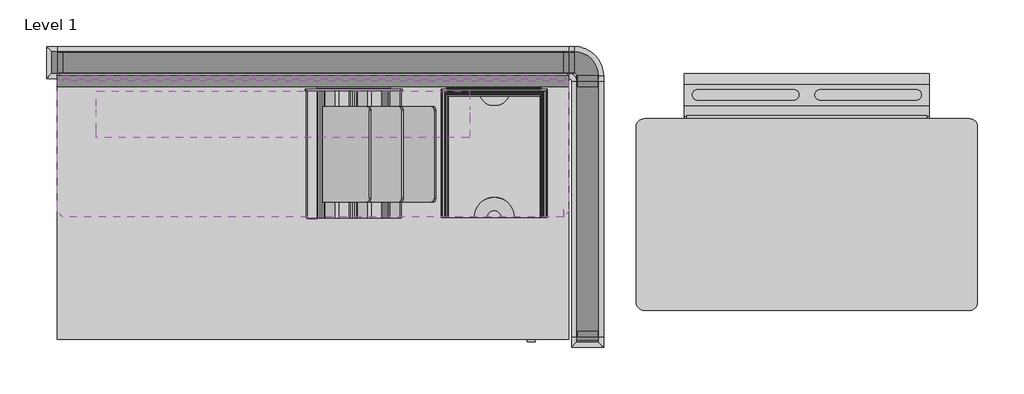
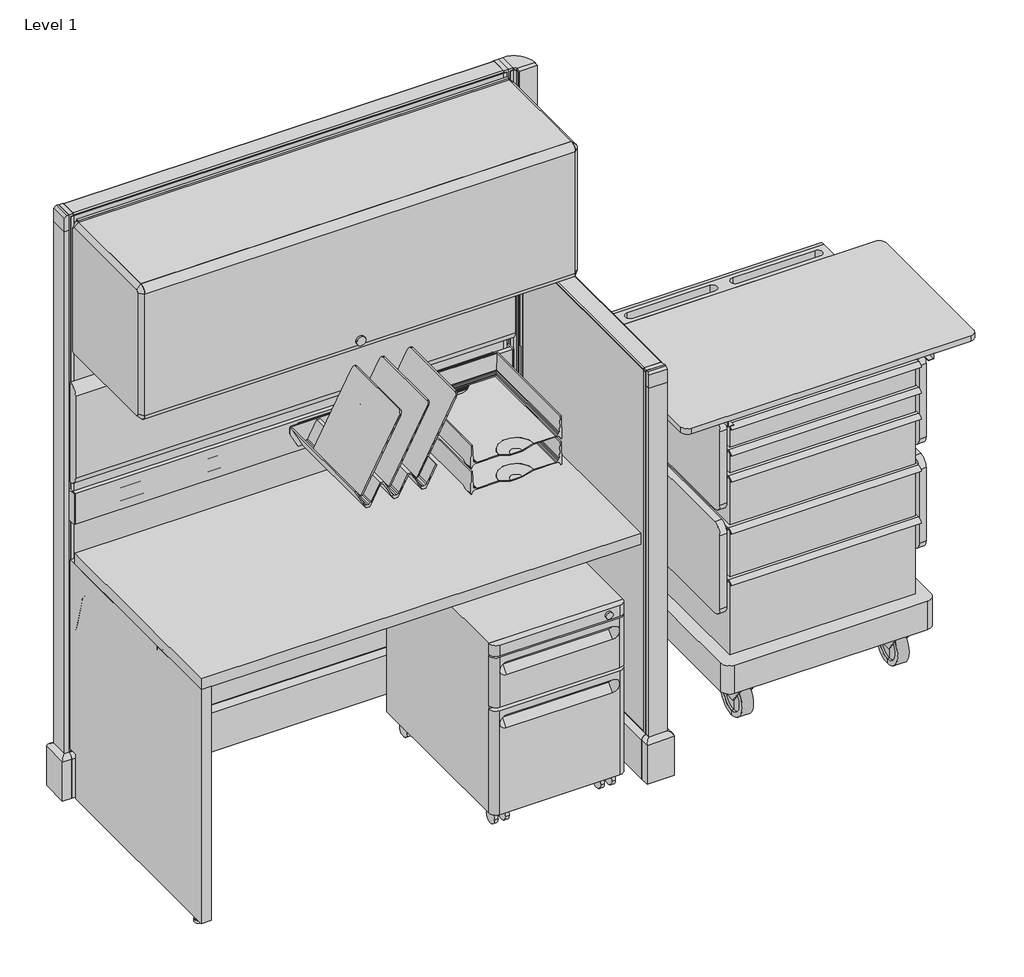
# One storey, incomplete: 25 furniture elements, 1 light fixture.
"""IFC4 building model written with IfcOpenShell, lengths in millimetres."""

from ifc_helpers import new_model, si_unit, origin, place, context, project, spatial, transform, mapped, element, save
from components import furniture_7109f743, furniture_22e63fa4, furniture_cda7a09b, furniture_49f88748, furniture_6098a880, furniture_083a197f, furniture_cf1839e9, furniture_645566ab, furniture_ddd7d6d3, furniture_545f82d3, furniture_84c54a78, furniture_77e4657b, furniture_9296cfee, furniture_28e0df5b, furniture_b7c7402d, furniture_9d04d1cc, furniture_cbf60e6f, furniture_c08c7397, furniture_5c2546f9, furniture_ba981915, a_3_f482e030, a_3_189406c7, b_6_92a8d064, b_6_520a1b3d, c_9_607037d1, light_fixture_5a12cc18

model = new_model("IFC4")

# Units and contexts
model_context = context("Model", 3, world=origin())
ifc_project = project(units=[si_unit("LENGTHUNIT", "METRE", prefix="MILLI")], contexts=[model_context])

# Site, building, storey
site = spatial("IfcSite", under=ifc_project)
building = spatial("IfcBuilding", under=site)
storey = spatial("IfcBuildingStorey", under=building, Name="Level 1", Elevation=0.0)

# Furniture
placement = place(None, origin())
furniture_shape = furniture_7109f743(model_context)
element("IfcFurniture", 1, ObjectType="HermanMiller_ActionOffice_A1110_Hard-SurfacedPanelStandardBase : 67\"H x 48\"W-N", at=placement, inside=storey, context=model_context, shape_type="MappedRepresentation", body=[
    mapped(furniture_shape, transform((609.6, -19.05, 0.0), x_axis=(1.0, 0.0, 0.0), y_axis=(0.0, 1.0, 0.0), z_axis=(0.0, 0.0, 1.0))),
])
furniture_2_shape = furniture_22e63fa4(model_context)
element("IfcFurniture", 2, ObjectType="HermanMiller_ActionOffice_A1110_Hard-SurfacedPanelStandardBase : 47\"H x 24\"W-N", at=placement, inside=storey, context=model_context, shape_type="MappedRepresentation", body=[
    mapped(furniture_2_shape, transform((1263.6493657, -368.3, 0.0), x_axis=(0.0, -1.0, 0.0), y_axis=(1.0, 0.0, 0.0), z_axis=(0.0, 0.0, 1.0))),
])
furniture_3_shape = furniture_cda7a09b(model_context)
element("IfcFurniture", 3, ObjectType="HermanMiller_ActionOffice_A3610_ToolBar : 4\"H x 48\"W", at=placement, inside=storey, context=model_context, shape_type="MappedRepresentation", body=[
    mapped(furniture_3_shape, transform((609.6, -57.1499996, 0.0), x_axis=(1.0, 0.0, 0.0), y_axis=(0.0, 1.0, 0.0), z_axis=(0.0, 0.0, 1.0))),
])
furniture_4_shape = furniture_49f88748(model_context)
element("IfcFurniture", 4, ObjectType="HermanMiller_ActionOffice_A3410_B-StyleTackboard : 12\"H x 48\"W", at=placement, inside=storey, context=model_context, shape_type="MappedRepresentation", body=[
    mapped(furniture_4_shape, transform((609.6, -63.5, 0.0), x_axis=(1.0, 0.0, 0.0), y_axis=(0.0, 1.0, 0.0), z_axis=(0.0, 0.0, 1.0))),
])
furniture_5_shape = furniture_6098a880(model_context)
element("IfcFurniture", 5, ObjectType="HermanMiller_ActionOffice_A3352_B-StyleFlipperDoorUnit : 15 1/2\"H x 13\"D x 48\"W", at=placement, inside=storey, context=model_context, shape_type="MappedRepresentation", body=[
    mapped(furniture_5_shape, transform((609.6, -231.775, 0.0), x_axis=(1.0, 0.0, 0.0), y_axis=(0.0, 1.0, 0.0), z_axis=(0.0, 0.0, 1.0))),
])
furniture_6_shape = furniture_083a197f(model_context)
element("IfcFurniture", 6, ObjectType="HermanMiller_ActionOffice_A2310_Sq-EdgeRectangularWorkSurface : 24\"D x 48\"W", at=placement, inside=storey, context=model_context, shape_type="MappedRepresentation", body=[
    mapped(furniture_6_shape, transform((609.6, -365.125, 0.0), x_axis=(1.0, 0.0, 0.0), y_axis=(0.0, 1.0, 0.0), z_axis=(0.0, 0.0, 1.0))),
])
furniture_7_shape = furniture_cf1839e9(model_context)
element("IfcFurniture", 7, ObjectType="HermanMiller_CoStruc_CO205_CFrame : 10\"H x 17\"D x 22\"W", at=placement, inside=storey, context=model_context, shape_type="MappedRepresentation", body=[
    mapped(furniture_7_shape, transform((1691.3807951, -215.4268397, 0.0), x_axis=(1.0, 0.0, 0.0), y_axis=(0.0, 1.0, 0.0), z_axis=(0.0, 0.0, 1.0))),
])
furniture_8_shape = furniture_645566ab(model_context)
element("IfcFurniture", 8, ObjectType="HermanMiller_CoStruc_CO555_CounterTop : 18\"D x 32\"W", at=placement, inside=storey, context=model_context, shape_type="MappedRepresentation", body=[
    mapped(furniture_8_shape, transform((1786.3185, -381.93472, 0.0), x_axis=(1.0, 0.0, 0.0), y_axis=(0.0, 1.0, 0.0), z_axis=(0.0, 0.0, 1.0))),
])
furniture_9_shape = furniture_ddd7d6d3(model_context)
element("IfcFurniture", 9, ObjectType="HermanMiller_CoStruc_CO205_CFrame : 10\"H x 17\"D x 22\"W", at=placement, inside=storey, context=model_context, shape_type="MappedRepresentation", body=[
    mapped(furniture_9_shape, transform((1691.3807951, -215.4268397, 0.0), x_axis=(1.0, 0.0, 0.0), y_axis=(0.0, 1.0, 0.0), z_axis=(0.0, 0.0, 1.0))),
])
furniture_10_shape = furniture_545f82d3(model_context)
element("IfcFurniture", 10, ObjectType="HermanMiller_CoStruc_CO212_LCart : 36\"H x 23\"W Std", at=placement, inside=storey, context=model_context, shape_type="MappedRepresentation", body=[
    mapped(furniture_10_shape, transform((1786.3185, -327.95972, 0.0), x_axis=(1.0, 0.0, 0.0), y_axis=(0.0, 1.0, 0.0), z_axis=(0.0, 0.0, 1.0))),
])
furniture_11_shape = furniture_84c54a78(model_context)
element("IfcFurniture", 11, ObjectType="HermanMiller_QuadrantFiling_G5111_MobilePedestal : 21-1/2\"H x 20\"D x 15\"W BF", at=placement, inside=storey, context=model_context, shape_type="MappedRepresentation", body=[
    mapped(furniture_11_shape, transform((994.43794, -415.925003, 0.0), x_axis=(1.0, 0.0, 0.0), y_axis=(0.0, 1.0, 0.0), z_axis=(0.0, 0.0, 1.0))),
])
furniture_12_shape = furniture_77e4657b(model_context)
element("IfcFurniture", 12, ObjectType="HermanMiller_ThrivePortfolio_Y7216_PaperTray : 3\"H x 12\"D x 10\"W", at=placement, inside=storey, context=model_context, shape_type="MappedRepresentation", body=[
    mapped(furniture_12_shape, transform((1041.29586, -235.1151, 0.0), x_axis=(1.0, 0.0, 0.0), y_axis=(0.0, 1.0, 0.0), z_axis=(0.0, 0.0, 1.0))),
])
furniture_13_shape = furniture_9296cfee(model_context)
element("IfcFurniture", 13, ObjectType="HermanMiller_ThrivePortfolio_Y7216_PaperTray : 3\"H x 12\"D x 10\"W", at=placement, inside=storey, context=model_context, shape_type="MappedRepresentation", body=[
    mapped(furniture_13_shape, transform((1041.29586, -235.1151, 0.0), x_axis=(1.0, 0.0, 0.0), y_axis=(0.0, 1.0, 0.0), z_axis=(0.0, 0.0, 1.0))),
])
furniture_14_shape = furniture_28e0df5b(model_context)
element("IfcFurniture", 14, ObjectType="HermanMiller_ThrivePortfolio_Y7218_DiagonalTray : 8 1/2\"H x 12\"D x 13\"W", at=placement, inside=storey, context=model_context, shape_type="MappedRepresentation", body=[
    mapped(furniture_14_shape, transform((706.399157, -236.62386, 0.0), x_axis=(1.0, 0.0, 0.0), y_axis=(0.0, 1.0, 0.0), z_axis=(0.0, 0.0, 1.0))),
])
furniture_15_shape = furniture_b7c7402d(model_context)
element("IfcFurniture", 15, ObjectType="HermanMiller_ActionOffice_A2380_WorkSuraceSupportPanelEnd : 24\"D", at=placement, inside=storey, context=model_context, shape_type="MappedRepresentation", body=[
    mapped(furniture_15_shape, transform((0.0, -679.45, 0.0), x_axis=(1.0, 0.0, 0.0), y_axis=(0.0, 1.0, 0.0), z_axis=(0.0, 0.0, 1.0))),
])
furniture_16_shape = furniture_9d04d1cc(model_context)
element("IfcFurniture", 16, ObjectType="HermanMiller_ActionOffice_AO259_AO272_FinishedEndChangeOfHeight : 32\"H Panel/Conn", at=placement, inside=storey, context=model_context, shape_type="MappedRepresentation", body=[
    mapped(furniture_16_shape, transform((1184.078369, -130.3709967, 0.0), x_axis=(0.0, -1.0, 0.0), y_axis=(1.0, 0.0, 0.0), z_axis=(0.0, 0.0, 1.0))),
])
furniture_17_shape = furniture_cbf60e6f(model_context)
element("IfcFurniture", 17, ObjectType="HermanMiller_ActionOffice_A1271_FinishedEndStandardBase : 47\"H", at=placement, inside=storey, context=model_context, shape_type="MappedRepresentation", body=[
    mapped(furniture_17_shape, transform((3712.3881533, 1311.7560512, 0.0), x_axis=(0.0, -1.0, 0.0), y_axis=(1.0, 0.0, 0.0), z_axis=(0.0, 0.0, 1.0))),
])
furniture_18_shape = furniture_c08c7397(model_context)
element("IfcFurniture", 18, ObjectType="HermanMiller_ActionOffice_A3390_B-StyleFlipperDoorBackPanel : 48\"W", at=placement, inside=storey, context=model_context, shape_type="MappedRepresentation", body=[
    mapped(furniture_18_shape, transform((611.1875, -57.15, 0.0), x_axis=(1.0, 0.0, 0.0), y_axis=(0.0, 1.0, 0.0), z_axis=(0.0, 0.0, 1.0))),
])
furniture_19_shape = furniture_5c2546f9(model_context)
element("IfcFurniture", 19, ObjectType="HermanMiller_ActionOffice_A1271_FinishedEndStandardBase : 67\"H", at=placement, inside=storey, context=model_context, shape_type="MappedRepresentation", body=[
    mapped(furniture_19_shape, transform((1984.8560512, -2467.7887877, 0.0), x_axis=(-1.0, 0.0, 0.0), y_axis=(0.0, -1.0, 0.0), z_axis=(0.0, 0.0, 1.0))),
])
furniture_20_shape = furniture_ba981915(model_context)
element("IfcFurniture", 20, ObjectType="HermanMiller_ActionOffice_A1220_90ConnectorStandardBase : 67\"H 2-Way-Hard", at=placement, inside=storey, context=model_context, shape_type="MappedRepresentation", body=[
    mapped(furniture_20_shape, transform((1257.3, -33.5639414, 0.0), x_axis=(1.0, 0.0, 0.0), y_axis=(0.0, 1.0, 0.0), z_axis=(0.0, 0.0, 1.0))),
])
a_3_shape = a_3_f482e030(model_context)
element("IfcFurniture", 21, ObjectType="HermanMiller_CoStruc_CO207_Drawer : A - 3", at=placement, inside=storey, context=model_context, shape_type="MappedRepresentation", body=[
    mapped(a_3_shape, transform((1786.2511517, -393.11834, 0.0), x_axis=(1.0, 0.0, 0.0), y_axis=(0.0, 1.0, 0.0), z_axis=(0.0, 0.0, 1.0))),
])
a_3_2_shape = a_3_189406c7(model_context)
element("IfcFurniture", 22, ObjectType="HermanMiller_CoStruc_CO207_Drawer : A - 3", at=placement, inside=storey, context=model_context, shape_type="MappedRepresentation", body=[
    mapped(a_3_2_shape, transform((1786.2511517, -393.11834, 0.0), x_axis=(1.0, 0.0, 0.0), y_axis=(0.0, 1.0, 0.0), z_axis=(0.0, 0.0, 1.0))),
])
b_6_shape = b_6_92a8d064(model_context)
element("IfcFurniture", 23, ObjectType="HermanMiller_CoStruc_CO207_Drawer : B - 6", at=placement, inside=storey, context=model_context, shape_type="MappedRepresentation", body=[
    mapped(b_6_shape, transform((1786.2511517, -393.11834, 0.0), x_axis=(1.0, 0.0, 0.0), y_axis=(0.0, 1.0, 0.0), z_axis=(0.0, 0.0, 1.0))),
])
b_6_2_shape = b_6_520a1b3d(model_context)
element("IfcFurniture", 24, ObjectType="HermanMiller_CoStruc_CO207_Drawer : B - 6", at=placement, inside=storey, context=model_context, shape_type="MappedRepresentation", body=[
    mapped(b_6_2_shape, transform((1786.2511517, -393.11834, 0.0), x_axis=(1.0, 0.0, 0.0), y_axis=(0.0, 1.0, 0.0), z_axis=(0.0, 0.0, 1.0))),
])
c_9_shape = c_9_607037d1(model_context)
element("IfcFurniture", 25, ObjectType="HermanMiller_CoStruc_CO207_Drawer : C - 9", at=placement, inside=storey, context=model_context, shape_type="MappedRepresentation", body=[
    mapped(c_9_shape, transform((1786.2511517, -393.11834, 0.0), x_axis=(1.0, 0.0, 0.0), y_axis=(0.0, 1.0, 0.0), z_axis=(0.0, 0.0, 1.0))),
])

# Light fixture
light_fixture_shape = light_fixture_5a12cc18(model_context)
element("IfcLightFixture", 26, ObjectType="HermanMiller_SupplementalProducts_G6136_UtilityTaskLight : AO Etho Canvas 42W", at=placement, inside=storey, context=model_context, shape_type="MappedRepresentation", body=[
    mapped(light_fixture_shape, transform((537.718, -142.875, 0.0), x_axis=(1.0, 0.0, 0.0), y_axis=(0.0, 1.0, 0.0), z_axis=(0.0, 0.0, 1.0))),
])

save(model, "model.ifc")
